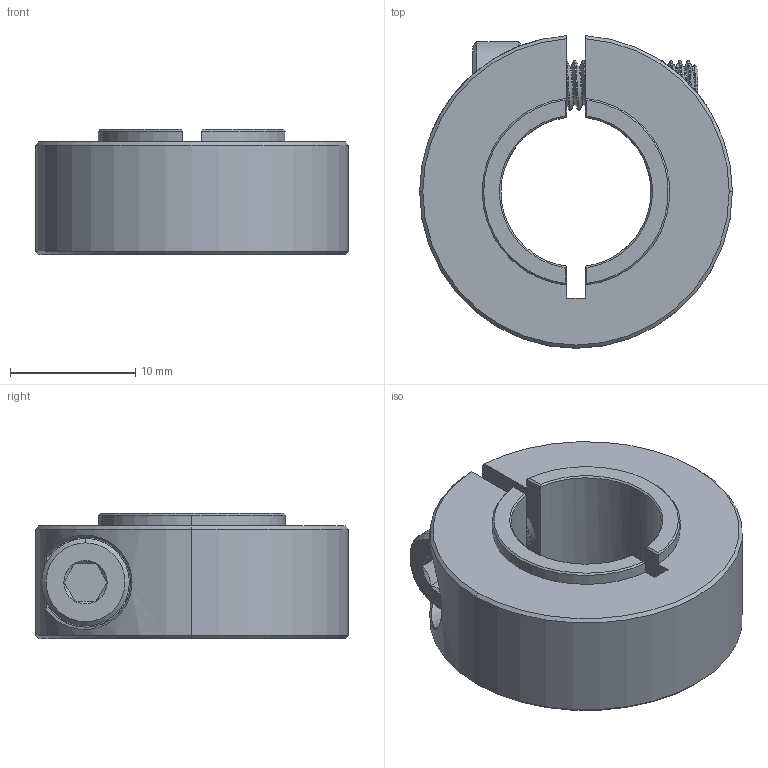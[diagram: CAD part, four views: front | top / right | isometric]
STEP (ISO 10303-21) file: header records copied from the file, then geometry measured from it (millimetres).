
FILE_DESCRIPTION (( 'STEP AP203' ), '1' );
FILE_NAME ('2910-0926-0012 assembly.STEP', '2021-04-20T18:01:52', ( '' ), ( '' ), 'SwSTEP 2.0', 'SolidWorks 2016', '' );
FILE_SCHEMA (( 'CONFIG_CONTROL_DESIGN' ));
Length unit declared in the file: millimetre
Products named in the file (3): 2910-0926-0012 assembly; 2910-0926-0012; 2800-0004-0014_90128A207
Assembly tree (2 placements, depth 2):
  2910-0926-0012 assembly
    2910-0926-0012
    2800-0004-0014_90128A207
Bounding box: 25 x 24.98 x 10 mm (x, y, z)
Volume: 3288.2 mm3; surface area: 2619.6 mm2
Topology: 2 solids, 2 shells, 222 faces, 616 edges, 400 vertices
Faces by surface type: cylinder 153, cone 31, plane 25, bspline 13
Entity records: 21533 total; most frequent: CARTESIAN_POINT 16521, ORIENTED_EDGE 1232, DIRECTION 757, EDGE_CURVE 616, VERTEX_POINT 400, AXIS2_PLACEMENT_3D 281, EDGE_LOOP 230, ADVANCED_FACE 222
